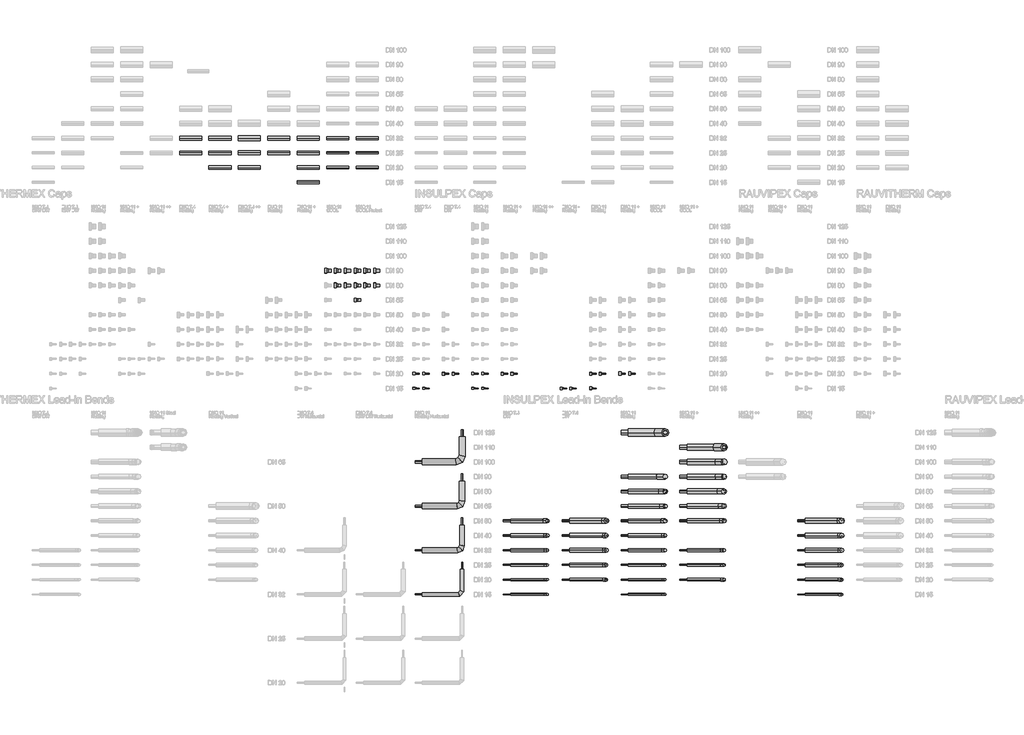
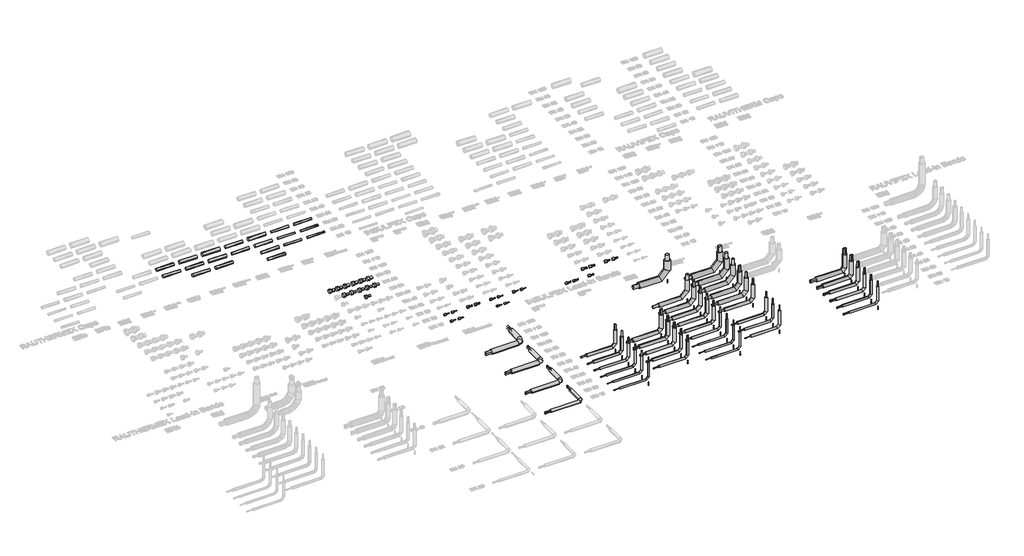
# One storey, part 3 of 44: 71 pipe fittings, 20 pipe segments.
"""IFC4 building model written with IfcOpenShell, lengths in millimetres."""

from ifc_helpers import new_model, si_unit, point, frame, frame_2d, origin, place, context, project, spatial, circle_curve, trimmed, segment, composite_curve, outline, extrude, transform, mapped, element, save
from components import dh_duo_cap_bee7bdcb, dh_duo_cap_a7ad99f1, dh_duo_cap_875ec6dc, dh_duo_cap_3647724c, dh_duo_cap_cb6b19dd, dh_lead_in_bend_9c1f3cdf, dh_lead_in_bend_0a7134a1, dh_lead_in_bend_0193aba3, dh_lead_in_bend_cfb21f70, dh_lead_in_bend_735d89d6, dh_lead_in_bend_4e434183, dh_lead_in_bend_f61e59fa, dh_lead_in_bend_112a9a77, dh_lead_in_bend_075c296f, dh_lead_in_bend_cdc12d39, dh_lead_in_bend_da32da03, dh_lead_in_bend_05f9b5ea, dh_lead_in_bend_30da0b8d, dh_lead_in_bend_9b5e54dc, dh_lead_in_bend_c79e8b9f, dh_lead_in_bend_feeb489e, dh_lead_in_bend_61ed127e, dh_lead_in_bend_73f67a77, dh_lead_in_bend_6452c113, dh_lead_in_bend_522bbd6f, dh_lead_in_bend_619dd2a3, dh_lead_in_bend_09b6b6ad, dh_lead_in_bend_92c5b351, dh_lead_in_bend_d9f55fb0, dh_lead_in_bend_e9c43efa, dh_lead_in_bend_a8d3aaa1, dh_lead_in_bend_2a2338d9, dh_lead_in_bend_900e78fb, dh_lead_in_bend_2175eca0, dh_lead_in_bend_6c71f6cb, dh_lead_in_bend_e1f75ada, dh_lead_in_bend_c3f83f1c, dh_lead_in_bend_d4395a4c, dh_lead_in_bend_4391f219, dh_lead_in_bend_ebeab00c, dh_lead_in_bend_0df09993, dh_lead_in_bend_e5b3f16c, dh_lead_in_bend_34a14ad4, dh_lead_in_bend_cb831e4c, dh_lead_in_bend_8204d9dc, dh_uno_cap_b82545c9, dh_uno_cap_9762717f, dh_uno_cap_46725ca9, dh_uno_cap_33b70dba, dh_uno_cap_73119769, dh_uno_cap_92e64040, dh_uno_cap_945a6275, dh_uno_cap_d341a48a, dh_uno_cap_0c001599, dh_uno_cap_0b3657b0

model = new_model("IFC4")

# Units and contexts
model_context = context("Model", 3, world=origin())
ifc_project = project(units=[si_unit("LENGTHUNIT", "METRE", prefix="MILLI")], contexts=[model_context])

# Site, building, storey
site = spatial("IfcSite", under=ifc_project)
building = spatial("IfcBuilding", under=site)
storey = spatial("IfcBuildingStorey", under=building, Name="REHAU Starting view", Elevation=0.0)

# Pipe fittings
placement = place(None, origin())
dh_duo_cap_shape = dh_duo_cap_bee7bdcb(model_context)
element("IfcPipeFitting", 1, ObjectType="DH_DUO_CAP : INSULPEX DUO 11 Heating - Schrink Cap", at=placement, inside=storey, context=model_context, shape_type="MappedRepresentation", body=[
    mapped(dh_duo_cap_shape, transform((22000.0, 7000.0, 0.0), x_axis=(1.0, 0.0, 0.0), y_axis=(0.0, -1.0, 0.0), z_axis=(0.0, 0.0, -1.0))),
])
dh_duo_cap_2_shape = dh_duo_cap_a7ad99f1(model_context)
element("IfcPipeFitting", 2, ObjectType="DH_DUO_CAP : INSULPEX DUO - 11 Heating - Schrink Cap", at=placement, inside=storey, context=model_context, shape_type="MappedRepresentation", body=[
    mapped(dh_duo_cap_2_shape, transform((21000.0, 7000.0, 0.0), x_axis=(1.0, 0.0, 0.0), y_axis=(0.0, 1.0, 0.0), z_axis=(0.0, 0.0, 1.0))),
])
dh_duo_cap_3_shape = dh_duo_cap_875ec6dc(model_context)
element("IfcPipeFitting", 3, ObjectType="DH_DUO_CAP : INSULPEX DUO 7.4 DW - Schrink Cap", at=placement, inside=storey, context=model_context, shape_type="MappedRepresentation", body=[
    mapped(dh_duo_cap_3_shape, transform((17000.0, 7500.0, 0.0), x_axis=(1.0, 0.0, 0.0), y_axis=(0.0, 1.0, 0.0), z_axis=(0.0, 0.0, 1.0))),
])
element("IfcPipeFitting", 4, ObjectType="DH_DUO_CAP : INSULPEX DUO - 11 Heating - Rubber Cap", at=placement, inside=storey, context=model_context, shape_type="MappedRepresentation", body=[
    mapped(dh_duo_cap_2_shape, transform((21330.0, 7000.0, 0.0), x_axis=(1.0, 0.0, 0.0), y_axis=(0.0, 1.0, 0.0), z_axis=(0.0, 0.0, 1.0))),
])
element("IfcPipeFitting", 5, ObjectType="DH_DUO_CAP : INSULPEX DUO 7.4 DW - Rubber Cap", at=placement, inside=storey, context=model_context, shape_type="MappedRepresentation", body=[
    mapped(dh_duo_cap_3_shape, transform((17330.0, 7500.0, 0.0), x_axis=(1.0, 0.0, 0.0), y_axis=(0.0, 1.0, 0.0), z_axis=(0.0, 0.0, 1.0))),
])
dh_duo_cap_4_shape = dh_duo_cap_3647724c(model_context)
element("IfcPipeFitting", 6, ObjectType="DH_DUO_CAP : INSULPEX DUO 11 Heating - Rubber Cap", at=placement, inside=storey, context=model_context, shape_type="MappedRepresentation", body=[
    mapped(dh_duo_cap_4_shape, transform((22330.0, 7500.0, 0.0), x_axis=(1.0, 0.0, 0.0), y_axis=(0.0, -1.0, 0.0), z_axis=(0.0, 0.0, -1.0))),
])
element("IfcPipeFitting", 7, ObjectType="DH_DUO_CAP : INSULPEX DUO 11 Heating - Schrink Cap", at=placement, inside=storey, context=model_context, shape_type="MappedRepresentation", body=[
    mapped(dh_duo_cap_4_shape, transform((22000.0, 7500.0, 0.0), x_axis=(1.0, 0.0, 0.0), y_axis=(0.0, -1.0, 0.0), z_axis=(0.0, 0.0, -1.0))),
])
dh_duo_cap_5_shape = dh_duo_cap_cb6b19dd(model_context)
element("IfcPipeFitting", 8, ObjectType="DH_DUO_CAP : INSULPEX DUO + 11 Heating - Rubber Cap", at=placement, inside=storey, context=model_context, shape_type="MappedRepresentation", body=[
    mapped(dh_duo_cap_5_shape, transform((23330.0, 7500.0, 0.0), x_axis=(1.0, 0.0, 0.0), y_axis=(0.0, -1.0, 0.0), z_axis=(0.0, 0.0, -1.0))),
])
element("IfcPipeFitting", 9, ObjectType="DH_DUO_CAP : INSULPEX DUO + 11 Heating - Schrink Cap", at=placement, inside=storey, context=model_context, shape_type="MappedRepresentation", body=[
    mapped(dh_duo_cap_5_shape, transform((23000.0, 7500.0, 0.0), x_axis=(1.0, 0.0, 0.0), y_axis=(0.0, -1.0, 0.0), z_axis=(0.0, 0.0, -1.0))),
])
dh_lead_in_bend_shape = dh_lead_in_bend_9c1f3cdf(model_context)
element("IfcPipeFitting", 10, ObjectType="DH_Lead-in Bend : INSULPEX DUO 7.4 DW Vertical", at=placement, inside=storey, context=model_context, shape_type="MappedRepresentation", body=[
    mapped(dh_lead_in_bend_shape, transform((22500.0, 500.0, 0.0), x_axis=(1.0, 0.0, 0.0), y_axis=(0.0, 0.0, 1.0), z_axis=(0.0, -1.0, 0.0))),
])
dh_lead_in_bend_2_shape = dh_lead_in_bend_0a7134a1(model_context)
element("IfcPipeFitting", 11, ObjectType="DH_Lead-in Bend : INSULPEX UNO + 11 Heating", at=placement, inside=storey, context=model_context, shape_type="MappedRepresentation", body=[
    mapped(dh_lead_in_bend_2_shape, transform((26500.0, 500.0, 0.0), x_axis=(1.0, 0.0, 0.0), y_axis=(0.0, 0.0, 1.0), z_axis=(0.0, -1.0, 0.0))),
])
dh_lead_in_bend_3_shape = dh_lead_in_bend_0193aba3(model_context)
element("IfcPipeFitting", 12, ObjectType="DH_Lead-in Bend : INSULPEX UNO 11 Heating", at=placement, inside=storey, context=model_context, shape_type="MappedRepresentation", body=[
    mapped(dh_lead_in_bend_3_shape, transform((24500.0, 4000.0, 0.0), x_axis=(1.0, 0.0, 0.0), y_axis=(0.0, 0.0, 1.0), z_axis=(0.0, -1.0, 0.0))),
])
dh_lead_in_bend_4_shape = dh_lead_in_bend_cfb21f70(model_context)
element("IfcPipeFitting", 13, ObjectType="DH_Lead-in Bend : INSULPEX UNO 7.4 DW", at=placement, inside=storey, context=model_context, shape_type="MappedRepresentation", body=[
    mapped(dh_lead_in_bend_4_shape, transform((20500.0, 0.0, 0.0), x_axis=(1.0, 0.0, 0.0), y_axis=(0.0, 0.0, 1.0), z_axis=(0.0, -1.0, 0.0))),
])
dh_lead_in_bend_5_shape = dh_lead_in_bend_735d89d6(model_context)
element("IfcPipeFitting", 14, ObjectType="DH_Lead-in Bend : INSULPEX DUO 7.4 DW Vertical", at=placement, inside=storey, context=model_context, shape_type="MappedRepresentation", body=[
    mapped(dh_lead_in_bend_5_shape, transform((22500.0, 1000.0, 0.0), x_axis=(1.0, 0.0, 0.0), y_axis=(0.0, 0.0, 1.0), z_axis=(0.0, -1.0, 0.0))),
])
dh_lead_in_bend_6_shape = dh_lead_in_bend_4e434183(model_context)
element("IfcPipeFitting", 15, ObjectType="DH_Lead-in Bend : INSULPEX DUO 7.4 DW Vertical", at=placement, inside=storey, context=model_context, shape_type="MappedRepresentation", body=[
    mapped(dh_lead_in_bend_6_shape, transform((22500.0, 1500.0, 0.0), x_axis=(1.0, 0.0, 0.0), y_axis=(0.0, 0.0, 1.0), z_axis=(0.0, -1.0, 0.0))),
])
dh_lead_in_bend_7_shape = dh_lead_in_bend_f61e59fa(model_context)
element("IfcPipeFitting", 16, ObjectType="DH_Lead-in Bend : INSULPEX DUO 7.4 DW Vertical", at=placement, inside=storey, context=model_context, shape_type="MappedRepresentation", body=[
    mapped(dh_lead_in_bend_7_shape, transform((22500.0, 2000.0, 0.0), x_axis=(1.0, 0.0, 0.0), y_axis=(0.0, 0.0, 1.0), z_axis=(0.0, -1.0, 0.0))),
])
dh_lead_in_bend_8_shape = dh_lead_in_bend_112a9a77(model_context)
element("IfcPipeFitting", 17, ObjectType="DH_Lead-in Bend : INSULPEX DUO 7.4 DW Vertical", at=placement, inside=storey, context=model_context, shape_type="MappedRepresentation", body=[
    mapped(dh_lead_in_bend_8_shape, transform((22500.0, 2500.0, 0.0), x_axis=(1.0, 0.0, 0.0), y_axis=(0.0, 0.0, 1.0), z_axis=(0.0, -1.0, 0.0))),
])
dh_lead_in_bend_9_shape = dh_lead_in_bend_075c296f(model_context)
element("IfcPipeFitting", 18, ObjectType="DH_Lead-in Bend : INSULPEX DUO 11 Heating Vertical", at=placement, inside=storey, context=model_context, shape_type="MappedRepresentation", body=[
    mapped(dh_lead_in_bend_9_shape, transform((30500.0, 0.0, 0.0), x_axis=(1.0, 0.0, 0.0), y_axis=(0.0, 0.0, 1.0), z_axis=(0.0, -1.0, 0.0))),
])
dh_lead_in_bend_10_shape = dh_lead_in_bend_cdc12d39(model_context)
element("IfcPipeFitting", 19, ObjectType="DH_Lead-in Bend : INSULPEX DUO 11 Heating Vertical", at=placement, inside=storey, context=model_context, shape_type="MappedRepresentation", body=[
    mapped(dh_lead_in_bend_10_shape, transform((30500.0, 500.0, 0.0), x_axis=(1.0, 0.0, 0.0), y_axis=(0.0, 0.0, 1.0), z_axis=(0.0, -1.0, 0.0))),
])
dh_lead_in_bend_11_shape = dh_lead_in_bend_da32da03(model_context)
element("IfcPipeFitting", 20, ObjectType="DH_Lead-in Bend : INSULPEX DUO 11 Heating Vertical", at=placement, inside=storey, context=model_context, shape_type="MappedRepresentation", body=[
    mapped(dh_lead_in_bend_11_shape, transform((30500.0, 1000.0, 0.0), x_axis=(1.0, 0.0, 0.0), y_axis=(0.0, 0.0, 1.0), z_axis=(0.0, -1.0, 0.0))),
])
dh_lead_in_bend_12_shape = dh_lead_in_bend_05f9b5ea(model_context)
element("IfcPipeFitting", 21, ObjectType="DH_Lead-in Bend : INSULPEX DUO 11 Heating Vertical", at=placement, inside=storey, context=model_context, shape_type="MappedRepresentation", body=[
    mapped(dh_lead_in_bend_12_shape, transform((30500.0, 1500.0, 0.0), x_axis=(1.0, 0.0, 0.0), y_axis=(0.0, 0.0, 1.0), z_axis=(0.0, -1.0, 0.0))),
])
dh_lead_in_bend_13_shape = dh_lead_in_bend_30da0b8d(model_context)
element("IfcPipeFitting", 22, ObjectType="DH_Lead-in Bend : INSULPEX DUO 11 Heating Vertical", at=placement, inside=storey, context=model_context, shape_type="MappedRepresentation", body=[
    mapped(dh_lead_in_bend_13_shape, transform((30500.0, 2000.0, 0.0), x_axis=(1.0, 0.0, 0.0), y_axis=(0.0, 0.0, 1.0), z_axis=(0.0, -1.0, 0.0))),
])
dh_lead_in_bend_14_shape = dh_lead_in_bend_9b5e54dc(model_context)
element("IfcPipeFitting", 23, ObjectType="DH_Lead-in Bend : INSULPEX DUO 11 Heating Vertical", at=placement, inside=storey, context=model_context, shape_type="MappedRepresentation", body=[
    mapped(dh_lead_in_bend_14_shape, transform((30500.0, 2500.0, 0.0), x_axis=(1.0, 0.0, 0.0), y_axis=(0.0, 0.0, 1.0), z_axis=(0.0, -1.0, 0.0))),
])
dh_lead_in_bend_15_shape = dh_lead_in_bend_c79e8b9f(model_context)
element("IfcPipeFitting", 24, ObjectType="DH_Lead-in Bend : INSULPEX UNO 7.4 DW", at=placement, inside=storey, context=model_context, shape_type="MappedRepresentation", body=[
    mapped(dh_lead_in_bend_15_shape, transform((20500.0, 500.0, 0.0), x_axis=(1.0, 0.0, 0.0), y_axis=(0.0, 0.0, 1.0), z_axis=(0.0, -1.0, 0.0))),
])
dh_lead_in_bend_16_shape = dh_lead_in_bend_feeb489e(model_context)
element("IfcPipeFitting", 25, ObjectType="DH_Lead-in Bend : INSULPEX UNO 7.4 DW", at=placement, inside=storey, context=model_context, shape_type="MappedRepresentation", body=[
    mapped(dh_lead_in_bend_16_shape, transform((20500.0, 1000.0, 0.0), x_axis=(1.0, 0.0, 0.0), y_axis=(0.0, 0.0, 1.0), z_axis=(0.0, -1.0, 0.0))),
])
dh_lead_in_bend_17_shape = dh_lead_in_bend_61ed127e(model_context)
element("IfcPipeFitting", 26, ObjectType="DH_Lead-in Bend : INSULPEX UNO 7.4 DW", at=placement, inside=storey, context=model_context, shape_type="MappedRepresentation", body=[
    mapped(dh_lead_in_bend_17_shape, transform((20500.0, 1500.0, 0.0), x_axis=(1.0, 0.0, 0.0), y_axis=(0.0, 0.0, 1.0), z_axis=(0.0, -1.0, 0.0))),
])
dh_lead_in_bend_18_shape = dh_lead_in_bend_73f67a77(model_context)
element("IfcPipeFitting", 27, ObjectType="DH_Lead-in Bend : INSULPEX UNO 7.4 DW", at=placement, inside=storey, context=model_context, shape_type="MappedRepresentation", body=[
    mapped(dh_lead_in_bend_18_shape, transform((20500.0, 2000.0, 0.0), x_axis=(1.0, 0.0, 0.0), y_axis=(0.0, 0.0, 1.0), z_axis=(0.0, -1.0, 0.0))),
])
dh_lead_in_bend_19_shape = dh_lead_in_bend_6452c113(model_context)
element("IfcPipeFitting", 28, ObjectType="DH_Lead-in Bend : INSULPEX UNO 7.4 DW", at=placement, inside=storey, context=model_context, shape_type="MappedRepresentation", body=[
    mapped(dh_lead_in_bend_19_shape, transform((20500.0, 2500.0, 0.0), x_axis=(1.0, 0.0, 0.0), y_axis=(0.0, 0.0, 1.0), z_axis=(0.0, -1.0, 0.0))),
])
dh_lead_in_bend_20_shape = dh_lead_in_bend_522bbd6f(model_context)
element("IfcPipeFitting", 29, ObjectType="DH_Lead-in Bend : INSULPEX UNO 11 Heating", at=placement, inside=storey, context=model_context, shape_type="MappedRepresentation", body=[
    mapped(dh_lead_in_bend_20_shape, transform((24500.0, 0.0, 0.0), x_axis=(1.0, 0.0, 0.0), y_axis=(0.0, 0.0, 1.0), z_axis=(0.0, -1.0, 0.0))),
])
dh_lead_in_bend_21_shape = dh_lead_in_bend_619dd2a3(model_context)
element("IfcPipeFitting", 30, ObjectType="DH_Lead-in Bend : INSULPEX UNO 11 Heating", at=placement, inside=storey, context=model_context, shape_type="MappedRepresentation", body=[
    mapped(dh_lead_in_bend_21_shape, transform((24500.0, 500.0, 0.0), x_axis=(1.0, 0.0, 0.0), y_axis=(0.0, 0.0, 1.0), z_axis=(0.0, -1.0, 0.0))),
])
dh_lead_in_bend_22_shape = dh_lead_in_bend_09b6b6ad(model_context)
element("IfcPipeFitting", 31, ObjectType="DH_Lead-in Bend : INSULPEX UNO 11 Heating", at=placement, inside=storey, context=model_context, shape_type="MappedRepresentation", body=[
    mapped(dh_lead_in_bend_22_shape, transform((24500.0, 1000.0, 0.0), x_axis=(1.0, 0.0, 0.0), y_axis=(0.0, 0.0, 1.0), z_axis=(0.0, -1.0, 0.0))),
])
dh_lead_in_bend_23_shape = dh_lead_in_bend_92c5b351(model_context)
element("IfcPipeFitting", 32, ObjectType="DH_Lead-in Bend : INSULPEX UNO 11 Heating", at=placement, inside=storey, context=model_context, shape_type="MappedRepresentation", body=[
    mapped(dh_lead_in_bend_23_shape, transform((24500.0, 1500.0, 0.0), x_axis=(1.0, 0.0, 0.0), y_axis=(0.0, 0.0, 1.0), z_axis=(0.0, -1.0, 0.0))),
])
dh_lead_in_bend_24_shape = dh_lead_in_bend_d9f55fb0(model_context)
element("IfcPipeFitting", 33, ObjectType="DH_Lead-in Bend : INSULPEX UNO 11 Heating", at=placement, inside=storey, context=model_context, shape_type="MappedRepresentation", body=[
    mapped(dh_lead_in_bend_24_shape, transform((24500.0, 2000.0, 0.0), x_axis=(1.0, 0.0, 0.0), y_axis=(0.0, 0.0, 1.0), z_axis=(0.0, -1.0, 0.0))),
])
dh_lead_in_bend_25_shape = dh_lead_in_bend_e9c43efa(model_context)
element("IfcPipeFitting", 34, ObjectType="DH_Lead-in Bend : INSULPEX UNO 11 Heating", at=placement, inside=storey, context=model_context, shape_type="MappedRepresentation", body=[
    mapped(dh_lead_in_bend_25_shape, transform((24500.0, 2500.0, 0.0), x_axis=(1.0, 0.0, 0.0), y_axis=(0.0, 0.0, 1.0), z_axis=(0.0, -1.0, 0.0))),
])
dh_lead_in_bend_26_shape = dh_lead_in_bend_a8d3aaa1(model_context)
element("IfcPipeFitting", 35, ObjectType="DH_Lead-in Bend : INSULPEX UNO 11 Heating", at=placement, inside=storey, context=model_context, shape_type="MappedRepresentation", body=[
    mapped(dh_lead_in_bend_26_shape, transform((24500.0, 3000.0, 0.0), x_axis=(1.0, 0.0, 0.0), y_axis=(0.0, 0.0, 1.0), z_axis=(0.0, -1.0, 0.0))),
])
dh_lead_in_bend_27_shape = dh_lead_in_bend_2a2338d9(model_context)
element("IfcPipeFitting", 36, ObjectType="DH_Lead-in Bend : INSULPEX UNO 11 Heating", at=placement, inside=storey, context=model_context, shape_type="MappedRepresentation", body=[
    mapped(dh_lead_in_bend_27_shape, transform((24500.0, 3500.0, 0.0), x_axis=(1.0, 0.0, 0.0), y_axis=(0.0, 0.0, 1.0), z_axis=(0.0, -1.0, 0.0))),
])
dh_lead_in_bend_28_shape = dh_lead_in_bend_900e78fb(model_context)
element("IfcPipeFitting", 37, ObjectType="DH_Lead-in Bend : INSULPEX UNO 11 Heating", at=placement, inside=storey, context=model_context, shape_type="MappedRepresentation", body=[
    mapped(dh_lead_in_bend_28_shape, transform((24500.0, 5500.0, 0.0), x_axis=(1.0, 0.0, 0.0), y_axis=(0.0, 0.0, 1.0), z_axis=(0.0, -1.0, 0.0))),
])
dh_lead_in_bend_29_shape = dh_lead_in_bend_2175eca0(model_context)
element("IfcPipeFitting", 38, ObjectType="DH_Lead-in Bend : INSULPEX UNO + 11 Heating", at=placement, inside=storey, context=model_context, shape_type="MappedRepresentation", body=[
    mapped(dh_lead_in_bend_29_shape, transform((26500.0, 1000.0, 0.0), x_axis=(1.0, 0.0, 0.0), y_axis=(0.0, 0.0, 1.0), z_axis=(0.0, -1.0, 0.0))),
])
dh_lead_in_bend_30_shape = dh_lead_in_bend_6c71f6cb(model_context)
element("IfcPipeFitting", 39, ObjectType="DH_Lead-in Bend : INSULPEX UNO + 11 Heating", at=placement, inside=storey, context=model_context, shape_type="MappedRepresentation", body=[
    mapped(dh_lead_in_bend_30_shape, transform((26500.0, 1500.0, 0.0), x_axis=(1.0, 0.0, 0.0), y_axis=(0.0, 0.0, 1.0), z_axis=(0.0, -1.0, 0.0))),
])
dh_lead_in_bend_31_shape = dh_lead_in_bend_e1f75ada(model_context)
element("IfcPipeFitting", 40, ObjectType="DH_Lead-in Bend : INSULPEX UNO + 11 Heating", at=placement, inside=storey, context=model_context, shape_type="MappedRepresentation", body=[
    mapped(dh_lead_in_bend_31_shape, transform((26500.0, 2500.0, 0.0), x_axis=(1.0, 0.0, 0.0), y_axis=(0.0, 0.0, 1.0), z_axis=(0.0, -1.0, 0.0))),
])
dh_lead_in_bend_32_shape = dh_lead_in_bend_c3f83f1c(model_context)
element("IfcPipeFitting", 41, ObjectType="DH_Lead-in Bend : INSULPEX UNO + 11 Heating", at=placement, inside=storey, context=model_context, shape_type="MappedRepresentation", body=[
    mapped(dh_lead_in_bend_32_shape, transform((26500.0, 3000.0, 0.0), x_axis=(1.0, 0.0, 0.0), y_axis=(0.0, 0.0, 1.0), z_axis=(0.0, -1.0, 0.0))),
])
dh_lead_in_bend_33_shape = dh_lead_in_bend_d4395a4c(model_context)
element("IfcPipeFitting", 42, ObjectType="DH_Lead-in Bend : INSULPEX UNO + 11 Heating", at=placement, inside=storey, context=model_context, shape_type="MappedRepresentation", body=[
    mapped(dh_lead_in_bend_33_shape, transform((26500.0, 3500.0, 0.0), x_axis=(1.0, 0.0, 0.0), y_axis=(0.0, 0.0, 1.0), z_axis=(0.0, -1.0, 0.0))),
])
dh_lead_in_bend_34_shape = dh_lead_in_bend_4391f219(model_context)
element("IfcPipeFitting", 43, ObjectType="DH_Lead-in Bend : INSULPEX UNO + 11 Heating", at=placement, inside=storey, context=model_context, shape_type="MappedRepresentation", body=[
    mapped(dh_lead_in_bend_34_shape, transform((26500.0, 4000.0, 0.0), x_axis=(1.0, 0.0, 0.0), y_axis=(0.0, 0.0, 1.0), z_axis=(0.0, -1.0, 0.0))),
])
dh_lead_in_bend_35_shape = dh_lead_in_bend_ebeab00c(model_context)
element("IfcPipeFitting", 44, ObjectType="DH_Lead-in Bend : INSULPEX UNO + 11 Heating", at=placement, inside=storey, context=model_context, shape_type="MappedRepresentation", body=[
    mapped(dh_lead_in_bend_35_shape, transform((26500.0, 4500.0, 0.0), x_axis=(1.0, 0.0, 0.0), y_axis=(0.0, 0.0, 1.0), z_axis=(0.0, -1.0, 0.0))),
])
dh_lead_in_bend_36_shape = dh_lead_in_bend_0df09993(model_context)
element("IfcPipeFitting", 45, ObjectType="DH_Lead-in Bend : RVT/RVX/RTX DUO 11 Heating Horizontal", at=placement, inside=storey, context=model_context, shape_type="MappedRepresentation", body=[
    mapped(dh_lead_in_bend_36_shape, transform((17600.0, 0.0, 0.0), x_axis=(1.0, 0.0, 0.0), y_axis=(0.0, 1.0, 0.0), z_axis=(0.0, 0.0, 1.0))),
])
dh_lead_in_bend_37_shape = dh_lead_in_bend_e5b3f16c(model_context)
element("IfcPipeFitting", 46, ObjectType="DH_Lead-in Bend : RVT/RVX/RTX DUO 11 Heating Horizontal", at=placement, inside=storey, context=model_context, shape_type="MappedRepresentation", body=[
    mapped(dh_lead_in_bend_37_shape, transform((17600.0, 1500.0, 0.0), x_axis=(1.0, 0.0, 0.0), y_axis=(0.0, 1.0, 0.0), z_axis=(0.0, 0.0, 1.0))),
])
dh_lead_in_bend_38_shape = dh_lead_in_bend_34a14ad4(model_context)
element("IfcPipeFitting", 47, ObjectType="DH_Lead-in Bend : RVT/RVX/RTX DUO 11 Heating Horizontal", at=placement, inside=storey, context=model_context, shape_type="MappedRepresentation", body=[
    mapped(dh_lead_in_bend_38_shape, transform((17600.0, 3000.0, 0.0), x_axis=(1.0, 0.0, 0.0), y_axis=(0.0, 1.0, 0.0), z_axis=(0.0, 0.0, 1.0))),
])
dh_lead_in_bend_39_shape = dh_lead_in_bend_cb831e4c(model_context)
element("IfcPipeFitting", 48, ObjectType="DH_Lead-in Bend : RVT/RVX/RTX DUO 11 Heating Horizontal", at=placement, inside=storey, context=model_context, shape_type="MappedRepresentation", body=[
    mapped(dh_lead_in_bend_39_shape, transform((17600.0, 4500.0, 0.0), x_axis=(1.0, 0.0, 0.0), y_axis=(0.0, 1.0, 0.0), z_axis=(0.0, 0.0, 1.0))),
])
dh_lead_in_bend_40_shape = dh_lead_in_bend_8204d9dc(model_context)
element("IfcPipeFitting", 49, ObjectType="DH_Lead-in Bend : INSULPEX UNO + 11 Heating", at=placement, inside=storey, context=model_context, shape_type="MappedRepresentation", body=[
    mapped(dh_lead_in_bend_40_shape, transform((26500.0, 5000.0, 0.0), x_axis=(1.0, 0.0, 0.0), y_axis=(0.0, 0.0, 1.0), z_axis=(0.0, -1.0, 0.0))),
])
dh_uno_cap_shape = dh_uno_cap_b82545c9(model_context)
element("IfcPipeFitting", 50, ObjectType="DH_UNO_CAP : INSULPEX UNO 11 Heating - Schrink Cap", at=placement, inside=storey, context=model_context, shape_type="MappedRepresentation", body=[
    mapped(dh_uno_cap_shape, transform((18000.0, 7000.0, 0.0), x_axis=(1.0, 0.0, 0.0), y_axis=(0.0, 1.0, 0.0), z_axis=(0.0, 0.0, 1.0))),
])
dh_uno_cap_2_shape = dh_uno_cap_9762717f(model_context)
element("IfcPipeFitting", 51, ObjectType="DH_UNO_CAP : INSULPEX UNO 7.4 DW - Schrink Cap", at=placement, inside=storey, context=model_context, shape_type="MappedRepresentation", body=[
    mapped(dh_uno_cap_2_shape, transform((16000.0, 7500.0, 0.0), x_axis=(1.0, 0.0, 0.0), y_axis=(0.0, 1.0, 0.0), z_axis=(0.0, 0.0, 1.0))),
])
element("IfcPipeFitting", 52, ObjectType="DH_UNO_CAP : INSULPEX UNO 7.4 DW - Rubber Cap", at=placement, inside=storey, context=model_context, shape_type="MappedRepresentation", body=[
    mapped(dh_uno_cap_2_shape, transform((16330.0, 7500.0, 0.0), x_axis=(1.0, 0.0, 0.0), y_axis=(0.0, 1.0, 0.0), z_axis=(0.0, 0.0, 1.0))),
])
dh_uno_cap_3_shape = dh_uno_cap_46725ca9(model_context)
element("IfcPipeFitting", 53, ObjectType="DH_UNO_CAP : INSULPEX UNO + 11 Heating - Schrink Cap", at=placement, inside=storey, context=model_context, shape_type="MappedRepresentation", body=[
    mapped(dh_uno_cap_3_shape, transform((19000.0, 7500.0, 0.0), x_axis=(1.0, 0.0, 0.0), y_axis=(0.0, 1.0, 0.0), z_axis=(0.0, 0.0, 1.0))),
])
element("IfcPipeFitting", 54, ObjectType="DH_UNO_CAP : INSULPEX UNO + 11 Heating - Rubber Cap", at=placement, inside=storey, context=model_context, shape_type="MappedRepresentation", body=[
    mapped(dh_uno_cap_3_shape, transform((19330.0, 7500.0, 0.0), x_axis=(1.0, 0.0, 0.0), y_axis=(0.0, -1.0, 0.0), z_axis=(0.0, 0.0, -1.0))),
])
dh_uno_cap_4_shape = dh_uno_cap_33b70dba(model_context)
element("IfcPipeFitting", 55, ObjectType="DH_UNO_CAP : RAUTHERMEX UNO 11 COOL - Rubber Cap", at=placement, inside=storey, context=model_context, shape_type="MappedRepresentation", body=[
    mapped(dh_uno_cap_4_shape, transform((13330.0, 10500.0, 0.0), x_axis=(1.0, 0.0, 0.0), y_axis=(0.0, 1.0, 0.0), z_axis=(0.0, 0.0, 1.0))),
])
dh_uno_cap_5_shape = dh_uno_cap_73119769(model_context)
element("IfcPipeFitting", 56, ObjectType="DH_UNO_CAP : RAUTHERMEX UNO 11 COOL - Solid Cap", at=placement, inside=storey, context=model_context, shape_type="MappedRepresentation", body=[
    mapped(dh_uno_cap_5_shape, transform((13660.0, 10500.0, 0.0), x_axis=(1.0, 0.0, 0.0), y_axis=(0.0, 1.0, 0.0), z_axis=(0.0, 0.0, 1.0))),
])
dh_uno_cap_6_shape = dh_uno_cap_92e64040(model_context)
element("IfcPipeFitting", 57, ObjectType="DH_UNO_CAP : RAUTHERMEX UNO 11 COOL - Schrink Cap", at=placement, inside=storey, context=model_context, shape_type="MappedRepresentation", body=[
    mapped(dh_uno_cap_6_shape, transform((13000.0, 11000.0, 0.0), x_axis=(1.0, 0.0, 0.0), y_axis=(0.0, 1.0, 0.0), z_axis=(0.0, 0.0, 1.0))),
])
element("IfcPipeFitting", 58, ObjectType="DH_UNO_CAP : RAUTHERMEX UNO 11 COOL - Rubber Cap", at=placement, inside=storey, context=model_context, shape_type="MappedRepresentation", body=[
    mapped(dh_uno_cap_6_shape, transform((13330.0, 11000.0, 0.0), x_axis=(1.0, 0.0, 0.0), y_axis=(0.0, 1.0, 0.0), z_axis=(0.0, 0.0, 1.0))),
])
dh_uno_cap_7_shape = dh_uno_cap_945a6275(model_context)
element("IfcPipeFitting", 59, ObjectType="DH_UNO_CAP : RAUTHERMEX UNO 11 COOL - Solid Cap", at=placement, inside=storey, context=model_context, shape_type="MappedRepresentation", body=[
    mapped(dh_uno_cap_7_shape, transform((13660.0, 11000.0, 0.0), x_axis=(1.0, 0.0, 0.0), y_axis=(0.0, 1.0, 0.0), z_axis=(0.0, 0.0, 1.0))),
])
dh_uno_cap_8_shape = dh_uno_cap_d341a48a(model_context)
element("IfcPipeFitting", 60, ObjectType="DH_UNO_CAP : RAUTHERMEX UNO 11 COOL Protect - Schrink Cap", at=placement, inside=storey, context=model_context, shape_type="MappedRepresentation", body=[
    mapped(dh_uno_cap_8_shape, transform((14000.0, 10000.0, 0.0), x_axis=(1.0, 0.0, 0.0), y_axis=(0.0, 1.0, 0.0), z_axis=(0.0, 0.0, 1.0))),
])
element("IfcPipeFitting", 61, ObjectType="DH_UNO_CAP : RAUTHERMEX UNO 11 COOL Protect - Schrink Cap", at=placement, inside=storey, context=model_context, shape_type="MappedRepresentation", body=[
    mapped(dh_uno_cap_4_shape, transform((14000.0, 10500.0, 0.0), x_axis=(1.0, 0.0, 0.0), y_axis=(0.0, 1.0, 0.0), z_axis=(0.0, 0.0, 1.0))),
])
element("IfcPipeFitting", 62, ObjectType="DH_UNO_CAP : RAUTHERMEX UNO 11 COOL Protect - Rubber Cap", at=placement, inside=storey, context=model_context, shape_type="MappedRepresentation", body=[
    mapped(dh_uno_cap_4_shape, transform((14330.0, 10500.0, 0.0), x_axis=(1.0, 0.0, 0.0), y_axis=(0.0, 1.0, 0.0), z_axis=(0.0, 0.0, 1.0))),
])
element("IfcPipeFitting", 63, ObjectType="DH_UNO_CAP : RAUTHERMEX UNO 11 COOL Protect - Solid Cap", at=placement, inside=storey, context=model_context, shape_type="MappedRepresentation", body=[
    mapped(dh_uno_cap_5_shape, transform((14660.0, 10500.0, 0.0), x_axis=(1.0, 0.0, 0.0), y_axis=(0.0, 1.0, 0.0), z_axis=(0.0, 0.0, 1.0))),
])
element("IfcPipeFitting", 64, ObjectType="DH_UNO_CAP : RAUTHERMEX UNO 11 COOL Protect - Schrink Cap", at=placement, inside=storey, context=model_context, shape_type="MappedRepresentation", body=[
    mapped(dh_uno_cap_6_shape, transform((14000.0, 11000.0, 0.0), x_axis=(1.0, 0.0, 0.0), y_axis=(0.0, 1.0, 0.0), z_axis=(0.0, 0.0, 1.0))),
])
element("IfcPipeFitting", 65, ObjectType="DH_UNO_CAP : RAUTHERMEX UNO 11 COOL Protect - Rubber Cap", at=placement, inside=storey, context=model_context, shape_type="MappedRepresentation", body=[
    mapped(dh_uno_cap_6_shape, transform((14330.0, 11000.0, 0.0), x_axis=(1.0, 0.0, 0.0), y_axis=(0.0, 1.0, 0.0), z_axis=(0.0, 0.0, 1.0))),
])
element("IfcPipeFitting", 66, ObjectType="DH_UNO_CAP : RAUTHERMEX UNO 11 COOL Protect - Solid Cap", at=placement, inside=storey, context=model_context, shape_type="MappedRepresentation", body=[
    mapped(dh_uno_cap_7_shape, transform((14660.0, 11000.0, 0.0), x_axis=(1.0, 0.0, 0.0), y_axis=(0.0, 1.0, 0.0), z_axis=(0.0, 0.0, 1.0))),
])
dh_uno_cap_9_shape = dh_uno_cap_0c001599(model_context)
element("IfcPipeFitting", 67, ObjectType="DH_UNO_CAP : INSULPEX UNO 7.4 DW - Schrink Cap", at=placement, inside=storey, context=model_context, shape_type="MappedRepresentation", body=[
    mapped(dh_uno_cap_9_shape, transform((16000.0, 7000.0, 0.0), x_axis=(1.0, 0.0, 0.0), y_axis=(0.0, 1.0, 0.0), z_axis=(0.0, 0.0, 1.0))),
])
element("IfcPipeFitting", 68, ObjectType="DH_UNO_CAP : INSULPEX UNO 7.4 DW - Rubber Cap", at=placement, inside=storey, context=model_context, shape_type="MappedRepresentation", body=[
    mapped(dh_uno_cap_9_shape, transform((16330.0, 7000.0, 0.0), x_axis=(1.0, 0.0, 0.0), y_axis=(0.0, 1.0, 0.0), z_axis=(0.0, 0.0, 1.0))),
])
element("IfcPipeFitting", 69, ObjectType="DH_UNO_CAP : INSULPEX UNO 11 Heating - Rubber Cap", at=placement, inside=storey, context=model_context, shape_type="MappedRepresentation", body=[
    mapped(dh_uno_cap_shape, transform((18330.0, 7000.0, 0.0), x_axis=(1.0, 0.0, 0.0), y_axis=(0.0, -1.0, 0.0), z_axis=(0.0, 0.0, -1.0))),
])
dh_uno_cap_10_shape = dh_uno_cap_0b3657b0(model_context)
element("IfcPipeFitting", 70, ObjectType="DH_UNO_CAP : INSULPEX UNO 11 Heating - Schrink Cap", at=placement, inside=storey, context=model_context, shape_type="MappedRepresentation", body=[
    mapped(dh_uno_cap_10_shape, transform((18000.0, 7500.0, 0.0), x_axis=(1.0, 0.0, 0.0), y_axis=(0.0, 1.0, 0.0), z_axis=(0.0, 0.0, 1.0))),
])
element("IfcPipeFitting", 71, ObjectType="DH_UNO_CAP : INSULPEX UNO 11 Heating - Rubber Cap", at=placement, inside=storey, context=model_context, shape_type="MappedRepresentation", body=[
    mapped(dh_uno_cap_10_shape, transform((18330.0, 7500.0, 0.0), x_axis=(1.0, 0.0, 0.0), y_axis=(0.0, -1.0, 0.0), z_axis=(0.0, 0.0, -1.0))),
])

# Pipe segments
element("IfcPipeSegment", 72, ObjectType="RAUTHERMEX DUO + 7.4 Heating", at=placement, inside=storey, context=model_context, shape_type="SweptSolid", body=[
    extrude(outline(composite_curve([segment(trimmed(circle_curve(frame_2d((14500.0, 0.0)), 55.5), [point((14444.5, 0.0))], [point((14500.0, 55.5))], False, "CARTESIAN"), True, "CONTINUOUS"), segment(trimmed(circle_curve(frame_2d((14500.0, 0.0)), 55.5), [point((14500.0, 55.5))], [point((14555.5, 0.0))], False, "CARTESIAN"), True, "CONTINUOUS"), segment(trimmed(circle_curve(frame_2d((14500.0, 0.0)), 55.5), [point((14555.5, 0.0))], [point((14500.0, -55.5))], False, "CARTESIAN"), True, "CONTINUOUS"), segment(trimmed(circle_curve(frame_2d((14500.0, 0.0)), 55.5), [point((14500.0, -55.5))], [point((14444.5, 0.0))], False, "CARTESIAN"), True, "CONTINUOUS")], self_intersect=False)), frame((9000.0, 0.0, 0.0), z_axis=(1.0, 0.0, 0.0), x_axis=(0.0, 1.0, 0.0)), (0.0, 0.0, 1.0), 750.0),
])
element("IfcPipeSegment", 73, ObjectType="RAUTHERMEX DUO + 7.4 Heating", at=placement, inside=storey, context=model_context, shape_type="SweptSolid", body=[
    extrude(outline(composite_curve([segment(trimmed(circle_curve(frame_2d((15000.0, 0.0)), 63.0), [point((14937.0, 0.0))], [point((15000.0, 63.0))], False, "CARTESIAN"), True, "CONTINUOUS"), segment(trimmed(circle_curve(frame_2d((15000.0, 0.0)), 63.0), [point((15000.0, 63.0))], [point((15063.0, 0.0))], False, "CARTESIAN"), True, "CONTINUOUS"), segment(trimmed(circle_curve(frame_2d((15000.0, 0.0)), 63.0), [point((15063.0, 0.0))], [point((15000.0, -63.0))], False, "CARTESIAN"), True, "CONTINUOUS"), segment(trimmed(circle_curve(frame_2d((15000.0, 0.0)), 63.0), [point((15000.0, -63.0))], [point((14937.0, 0.0))], False, "CARTESIAN"), True, "CONTINUOUS")], self_intersect=False)), frame((9000.0, 0.0, 0.0), z_axis=(1.0, 0.0, 0.0), x_axis=(0.0, 1.0, 0.0)), (0.0, 0.0, 1.0), 750.0),
])
element("IfcPipeSegment", 74, ObjectType="RAUTHERMEX DUO + 7.4 Heating", at=placement, inside=storey, context=model_context, shape_type="SweptSolid", body=[
    extrude(outline(composite_curve([segment(trimmed(circle_curve(frame_2d((15500.0, 0.0)), 71.0), [point((15429.0, 0.0))], [point((15500.0, 71.0))], False, "CARTESIAN"), True, "CONTINUOUS"), segment(trimmed(circle_curve(frame_2d((15500.0, 0.0)), 71.0), [point((15500.0, 71.0))], [point((15571.0, 0.0))], False, "CARTESIAN"), True, "CONTINUOUS"), segment(trimmed(circle_curve(frame_2d((15500.0, 0.0)), 71.0), [point((15571.0, 0.0))], [point((15500.0, -71.0))], False, "CARTESIAN"), True, "CONTINUOUS"), segment(trimmed(circle_curve(frame_2d((15500.0, 0.0)), 71.0), [point((15500.0, -71.0))], [point((15429.0, 0.0))], False, "CARTESIAN"), True, "CONTINUOUS")], self_intersect=False)), frame((9000.0, 0.0, 0.0), z_axis=(1.0, 0.0, 0.0), x_axis=(0.0, 1.0, 0.0)), (0.0, 0.0, 1.0), 750.0),
])
element("IfcPipeSegment", 75, ObjectType="RAUTHERMEX DUO 7.4 Heating", at=placement, inside=storey, context=model_context, shape_type="SweptSolid", body=[
    extrude(outline(composite_curve([segment(trimmed(circle_curve(frame_2d((15000.0, 0.0)), 55.5), [point((14944.5, 0.0))], [point((15000.0, 55.5))], False, "CARTESIAN"), True, "CONTINUOUS"), segment(trimmed(circle_curve(frame_2d((15000.0, 0.0)), 55.5), [point((15000.0, 55.5))], [point((15055.5, 0.0))], False, "CARTESIAN"), True, "CONTINUOUS"), segment(trimmed(circle_curve(frame_2d((15000.0, 0.0)), 55.5), [point((15055.5, 0.0))], [point((15000.0, -55.5))], False, "CARTESIAN"), True, "CONTINUOUS"), segment(trimmed(circle_curve(frame_2d((15000.0, 0.0)), 55.5), [point((15000.0, -55.5))], [point((14944.5, 0.0))], False, "CARTESIAN"), True, "CONTINUOUS")], self_intersect=False)), frame((8000.0, 0.0, 0.0), z_axis=(1.0, 0.0, 0.0), x_axis=(0.0, 1.0, 0.0)), (0.0, 0.0, 1.0), 750.0),
])
element("IfcPipeSegment", 76, ObjectType="RAUTHERMEX DUO 7.4 Heating", at=placement, inside=storey, context=model_context, shape_type="SweptSolid", body=[
    extrude(outline(composite_curve([segment(trimmed(circle_curve(frame_2d((15500.0, 0.0)), 63.0), [point((15437.0, 0.0))], [point((15500.0, 63.0))], False, "CARTESIAN"), True, "CONTINUOUS"), segment(trimmed(circle_curve(frame_2d((15500.0, 0.0)), 63.0), [point((15500.0, 63.0))], [point((15563.0, 0.0))], False, "CARTESIAN"), True, "CONTINUOUS"), segment(trimmed(circle_curve(frame_2d((15500.0, 0.0)), 63.0), [point((15563.0, 0.0))], [point((15500.0, -63.0))], False, "CARTESIAN"), True, "CONTINUOUS"), segment(trimmed(circle_curve(frame_2d((15500.0, 0.0)), 63.0), [point((15500.0, -63.0))], [point((15437.0, 0.0))], False, "CARTESIAN"), True, "CONTINUOUS")], self_intersect=False)), frame((8000.0, 0.0, 0.0), z_axis=(1.0, 0.0, 0.0), x_axis=(0.0, 1.0, 0.0)), (0.0, 0.0, 1.0), 750.0),
])
element("IfcPipeSegment", 77, ObjectType="RAUTHERMEX DUO ++ 7.4 Heating", at=placement, inside=storey, context=model_context, shape_type="SweptSolid", body=[
    extrude(outline(composite_curve([segment(trimmed(circle_curve(frame_2d((14500.0, 0.0)), 63.0), [point((14437.0, 0.0))], [point((14500.0, 63.0))], False, "CARTESIAN"), True, "CONTINUOUS"), segment(trimmed(circle_curve(frame_2d((14500.0, 0.0)), 63.0), [point((14500.0, 63.0))], [point((14563.0, 0.0))], False, "CARTESIAN"), True, "CONTINUOUS"), segment(trimmed(circle_curve(frame_2d((14500.0, 0.0)), 63.0), [point((14563.0, 0.0))], [point((14500.0, -63.0))], False, "CARTESIAN"), True, "CONTINUOUS"), segment(trimmed(circle_curve(frame_2d((14500.0, 0.0)), 63.0), [point((14500.0, -63.0))], [point((14437.0, 0.0))], False, "CARTESIAN"), True, "CONTINUOUS")], self_intersect=False)), frame((10000.0, 0.0, 0.0), z_axis=(1.0, 0.0, 0.0), x_axis=(0.0, 1.0, 0.0)), (0.0, 0.0, 1.0), 750.0),
])
element("IfcPipeSegment", 78, ObjectType="RAUTHERMEX DUO ++ 7.4 Heating", at=placement, inside=storey, context=model_context, shape_type="SweptSolid", body=[
    extrude(outline(composite_curve([segment(trimmed(circle_curve(frame_2d((15000.0, 0.0)), 71.0), [point((14929.0, 0.0))], [point((15000.0, 71.0))], False, "CARTESIAN"), True, "CONTINUOUS"), segment(trimmed(circle_curve(frame_2d((15000.0, 0.0)), 71.0), [point((15000.0, 71.0))], [point((15071.0, 0.0))], False, "CARTESIAN"), True, "CONTINUOUS"), segment(trimmed(circle_curve(frame_2d((15000.0, 0.0)), 71.0), [point((15071.0, 0.0))], [point((15000.0, -71.0))], False, "CARTESIAN"), True, "CONTINUOUS"), segment(trimmed(circle_curve(frame_2d((15000.0, 0.0)), 71.0), [point((15000.0, -71.0))], [point((14929.0, 0.0))], False, "CARTESIAN"), True, "CONTINUOUS")], self_intersect=False)), frame((10000.0, 0.0, 0.0), z_axis=(1.0, 0.0, 0.0), x_axis=(0.0, 1.0, 0.0)), (0.0, 0.0, 1.0), 750.0),
])
element("IfcPipeSegment", 79, ObjectType="RAUTHERMEX DUO ++ 7.4 Heating", at=placement, inside=storey, context=model_context, shape_type="SweptSolid", body=[
    extrude(outline(composite_curve([segment(trimmed(circle_curve(frame_2d((15500.0, 0.0)), 81.0), [point((15419.0, 0.0))], [point((15500.0, 81.0))], False, "CARTESIAN"), True, "CONTINUOUS"), segment(trimmed(circle_curve(frame_2d((15500.0, 0.0)), 81.0), [point((15500.0, 81.0))], [point((15581.0, 0.0))], False, "CARTESIAN"), True, "CONTINUOUS"), segment(trimmed(circle_curve(frame_2d((15500.0, 0.0)), 81.0), [point((15581.0, 0.0))], [point((15500.0, -81.0))], False, "CARTESIAN"), True, "CONTINUOUS"), segment(trimmed(circle_curve(frame_2d((15500.0, 0.0)), 81.0), [point((15500.0, -81.0))], [point((15419.0, 0.0))], False, "CARTESIAN"), True, "CONTINUOUS")], self_intersect=False)), frame((10000.0, 0.0, 0.0), z_axis=(1.0, 0.0, 0.0), x_axis=(0.0, 1.0, 0.0)), (0.0, 0.0, 1.0), 750.0),
])
element("IfcPipeSegment", 80, ObjectType="RAUTHERMEX DUO 11 Heating", at=placement, inside=storey, context=model_context, shape_type="SweptSolid", body=[
    extrude(outline(composite_curve([segment(trimmed(circle_curve(frame_2d((15000.0, 0.0)), 55.5), [point((14944.5, 0.0))], [point((15000.0, 55.5))], False, "CARTESIAN"), True, "CONTINUOUS"), segment(trimmed(circle_curve(frame_2d((15000.0, 0.0)), 55.5), [point((15000.0, 55.5))], [point((15055.5, 0.0))], False, "CARTESIAN"), True, "CONTINUOUS"), segment(trimmed(circle_curve(frame_2d((15000.0, 0.0)), 55.5), [point((15055.5, 0.0))], [point((15000.0, -55.5))], False, "CARTESIAN"), True, "CONTINUOUS"), segment(trimmed(circle_curve(frame_2d((15000.0, 0.0)), 55.5), [point((15000.0, -55.5))], [point((14944.5, 0.0))], False, "CARTESIAN"), True, "CONTINUOUS")], self_intersect=False)), frame((11000.0, 0.0, 0.0), z_axis=(1.0, 0.0, 0.0), x_axis=(0.0, 1.0, 0.0)), (0.0, 0.0, 1.0), 750.0),
])
element("IfcPipeSegment", 81, ObjectType="RAUTHERMEX DUO 11 Heating", at=placement, inside=storey, context=model_context, shape_type="SweptSolid", body=[
    extrude(outline(composite_curve([segment(trimmed(circle_curve(frame_2d((15500.0, 0.0)), 63.0), [point((15437.0, 0.0))], [point((15500.0, 63.0))], False, "CARTESIAN"), True, "CONTINUOUS"), segment(trimmed(circle_curve(frame_2d((15500.0, 0.0)), 63.0), [point((15500.0, 63.0))], [point((15563.0, 0.0))], False, "CARTESIAN"), True, "CONTINUOUS"), segment(trimmed(circle_curve(frame_2d((15500.0, 0.0)), 63.0), [point((15563.0, 0.0))], [point((15500.0, -63.0))], False, "CARTESIAN"), True, "CONTINUOUS"), segment(trimmed(circle_curve(frame_2d((15500.0, 0.0)), 63.0), [point((15500.0, -63.0))], [point((15437.0, 0.0))], False, "CARTESIAN"), True, "CONTINUOUS")], self_intersect=False)), frame((11000.0, 0.0, 0.0), z_axis=(1.0, 0.0, 0.0), x_axis=(0.0, 1.0, 0.0)), (0.0, 0.0, 1.0), 750.0),
])
element("IfcPipeSegment", 82, ObjectType="RAUTHERMEX DUO + 11 Heating", at=placement, inside=storey, context=model_context, shape_type="SweptSolid", body=[
    extrude(outline(composite_curve([segment(trimmed(circle_curve(frame_2d((15000.0, 0.0)), 63.0), [point((14937.0, 0.0))], [point((15000.0, 63.0))], False, "CARTESIAN"), True, "CONTINUOUS"), segment(trimmed(circle_curve(frame_2d((15000.0, 0.0)), 63.0), [point((15000.0, 63.0))], [point((15063.0, 0.0))], False, "CARTESIAN"), True, "CONTINUOUS"), segment(trimmed(circle_curve(frame_2d((15000.0, 0.0)), 63.0), [point((15063.0, 0.0))], [point((15000.0, -63.0))], False, "CARTESIAN"), True, "CONTINUOUS"), segment(trimmed(circle_curve(frame_2d((15000.0, 0.0)), 63.0), [point((15000.0, -63.0))], [point((14937.0, 0.0))], False, "CARTESIAN"), True, "CONTINUOUS")], self_intersect=False)), frame((12000.0, 0.0, 0.0), z_axis=(1.0, 0.0, 0.0), x_axis=(0.0, 1.0, 0.0)), (0.0, 0.0, 1.0), 750.0),
])
element("IfcPipeSegment", 83, ObjectType="RAUTHERMEX DUO + 11 Heating", at=placement, inside=storey, context=model_context, shape_type="SweptSolid", body=[
    extrude(outline(composite_curve([segment(trimmed(circle_curve(frame_2d((15500.0, 0.0)), 71.0), [point((15429.0, 0.0))], [point((15500.0, 71.0))], False, "CARTESIAN"), True, "CONTINUOUS"), segment(trimmed(circle_curve(frame_2d((15500.0, 0.0)), 71.0), [point((15500.0, 71.0))], [point((15571.0, 0.0))], False, "CARTESIAN"), True, "CONTINUOUS"), segment(trimmed(circle_curve(frame_2d((15500.0, 0.0)), 71.0), [point((15571.0, 0.0))], [point((15500.0, -71.0))], False, "CARTESIAN"), True, "CONTINUOUS"), segment(trimmed(circle_curve(frame_2d((15500.0, 0.0)), 71.0), [point((15500.0, -71.0))], [point((15429.0, 0.0))], False, "CARTESIAN"), True, "CONTINUOUS")], self_intersect=False)), frame((12000.0, 0.0, 0.0), z_axis=(1.0, 0.0, 0.0), x_axis=(0.0, 1.0, 0.0)), (0.0, 0.0, 1.0), 750.0),
])
element("IfcPipeSegment", 84, ObjectType="RAUTHERMEX DUO + 11 Heating", at=placement, inside=storey, context=model_context, shape_type="SweptSolid", body=[
    extrude(outline(composite_curve([segment(trimmed(circle_curve(frame_2d((14500.0, 0.0)), 55.5), [point((14444.5, 0.0))], [point((14500.0, 55.5))], False, "CARTESIAN"), True, "CONTINUOUS"), segment(trimmed(circle_curve(frame_2d((14500.0, 0.0)), 55.5), [point((14500.0, 55.5))], [point((14555.5, 0.0))], False, "CARTESIAN"), True, "CONTINUOUS"), segment(trimmed(circle_curve(frame_2d((14500.0, 0.0)), 55.5), [point((14555.5, 0.0))], [point((14500.0, -55.5))], False, "CARTESIAN"), True, "CONTINUOUS"), segment(trimmed(circle_curve(frame_2d((14500.0, 0.0)), 55.5), [point((14500.0, -55.5))], [point((14444.5, 0.0))], False, "CARTESIAN"), True, "CONTINUOUS")], self_intersect=False)), frame((12000.0, 0.0, 0.0), z_axis=(1.0, 0.0, 0.0), x_axis=(0.0, 1.0, 0.0)), (0.0, 0.0, 1.0), 750.0),
])
element("IfcPipeSegment", 85, ObjectType="RAUTHERMEX DUO + 11 Heating", at=placement, inside=storey, context=model_context, shape_type="SweptSolid", body=[
    extrude(outline(composite_curve([segment(trimmed(circle_curve(frame_2d((14000.0, 0.0)), 55.5), [point((13944.5, 0.0))], [point((14000.0, 55.5))], False, "CARTESIAN"), True, "CONTINUOUS"), segment(trimmed(circle_curve(frame_2d((14000.0, 0.0)), 55.5), [point((14000.0, 55.5))], [point((14055.5, 0.0))], False, "CARTESIAN"), True, "CONTINUOUS"), segment(trimmed(circle_curve(frame_2d((14000.0, 0.0)), 55.5), [point((14055.5, 0.0))], [point((14000.0, -55.5))], False, "CARTESIAN"), True, "CONTINUOUS"), segment(trimmed(circle_curve(frame_2d((14000.0, 0.0)), 55.5), [point((14000.0, -55.5))], [point((13944.5, 0.0))], False, "CARTESIAN"), True, "CONTINUOUS")], self_intersect=False)), frame((12000.0, 0.0, 0.0), z_axis=(1.0, 0.0, 0.0), x_axis=(0.0, 1.0, 0.0)), (0.0, 0.0, 1.0), 750.0),
])
element("IfcPipeSegment", 86, ObjectType="RAUTHERMEX UNO 11 COOL", at=placement, inside=storey, context=model_context, shape_type="SweptSolid", body=[
    extrude(outline(composite_curve([segment(trimmed(circle_curve(frame_2d((15000.0, 0.0)), 38.0), [point((14962.0, 0.0))], [point((15000.0, 38.0))], False, "CARTESIAN"), True, "CONTINUOUS"), segment(trimmed(circle_curve(frame_2d((15000.0, 0.0)), 38.0), [point((15000.0, 38.0))], [point((15038.0, 0.0))], False, "CARTESIAN"), True, "CONTINUOUS"), segment(trimmed(circle_curve(frame_2d((15000.0, 0.0)), 38.0), [point((15038.0, 0.0))], [point((15000.0, -38.0))], False, "CARTESIAN"), True, "CONTINUOUS"), segment(trimmed(circle_curve(frame_2d((15000.0, 0.0)), 38.0), [point((15000.0, -38.0))], [point((14962.0, 0.0))], False, "CARTESIAN"), True, "CONTINUOUS")], self_intersect=False)), frame((13000.0, 0.0, 0.0), z_axis=(1.0, 0.0, 0.0), x_axis=(0.0, 1.0, 0.0)), (0.0, 0.0, 1.0), 750.0),
])
element("IfcPipeSegment", 87, ObjectType="RAUTHERMEX UNO 11 COOL", at=placement, inside=storey, context=model_context, shape_type="SweptSolid", body=[
    extrude(outline(composite_curve([segment(trimmed(circle_curve(frame_2d((15500.0, 0.0)), 45.5), [point((15454.5, 0.0))], [point((15500.0, 45.5))], False, "CARTESIAN"), True, "CONTINUOUS"), segment(trimmed(circle_curve(frame_2d((15500.0, 0.0)), 45.5), [point((15500.0, 45.5))], [point((15545.5, 0.0))], False, "CARTESIAN"), True, "CONTINUOUS"), segment(trimmed(circle_curve(frame_2d((15500.0, 0.0)), 45.5), [point((15545.5, 0.0))], [point((15500.0, -45.5))], False, "CARTESIAN"), True, "CONTINUOUS"), segment(trimmed(circle_curve(frame_2d((15500.0, 0.0)), 45.5), [point((15500.0, -45.5))], [point((15454.5, 0.0))], False, "CARTESIAN"), True, "CONTINUOUS")], self_intersect=False)), frame((13000.0, 0.0, 0.0), z_axis=(1.0, 0.0, 0.0), x_axis=(0.0, 1.0, 0.0)), (0.0, 0.0, 1.0), 750.0),
])
element("IfcPipeSegment", 88, ObjectType="RAUTHERMEX UNO 11 COOL", at=placement, inside=storey, context=model_context, shape_type="SweptSolid", body=[
    extrude(outline(composite_curve([segment(trimmed(circle_curve(frame_2d((14500.0, 0.0)), 38.0), [point((14462.0, 0.0))], [point((14500.0, 38.0))], False, "CARTESIAN"), True, "CONTINUOUS"), segment(trimmed(circle_curve(frame_2d((14500.0, 0.0)), 38.0), [point((14500.0, 38.0))], [point((14538.0, 0.0))], False, "CARTESIAN"), True, "CONTINUOUS"), segment(trimmed(circle_curve(frame_2d((14500.0, 0.0)), 38.0), [point((14538.0, 0.0))], [point((14500.0, -38.0))], False, "CARTESIAN"), True, "CONTINUOUS"), segment(trimmed(circle_curve(frame_2d((14500.0, 0.0)), 38.0), [point((14500.0, -38.0))], [point((14462.0, 0.0))], False, "CARTESIAN"), True, "CONTINUOUS")], self_intersect=False)), frame((13000.0, 0.0, 0.0), z_axis=(1.0, 0.0, 0.0), x_axis=(0.0, 1.0, 0.0)), (0.0, 0.0, 1.0), 750.0),
])
element("IfcPipeSegment", 89, ObjectType="RAUTHERMEX UNO 11 COOL Protect", at=placement, inside=storey, context=model_context, shape_type="SweptSolid", body=[
    extrude(outline(composite_curve([segment(trimmed(circle_curve(frame_2d((15000.0, 0.0)), 38.0), [point((14962.0, 0.0))], [point((15000.0, 38.0))], False, "CARTESIAN"), True, "CONTINUOUS"), segment(trimmed(circle_curve(frame_2d((15000.0, 0.0)), 38.0), [point((15000.0, 38.0))], [point((15038.0, 0.0))], False, "CARTESIAN"), True, "CONTINUOUS"), segment(trimmed(circle_curve(frame_2d((15000.0, 0.0)), 38.0), [point((15038.0, 0.0))], [point((15000.0, -38.0))], False, "CARTESIAN"), True, "CONTINUOUS"), segment(trimmed(circle_curve(frame_2d((15000.0, 0.0)), 38.0), [point((15000.0, -38.0))], [point((14962.0, 0.0))], False, "CARTESIAN"), True, "CONTINUOUS")], self_intersect=False)), frame((14000.0, 0.0, 0.0), z_axis=(1.0, 0.0, 0.0), x_axis=(0.0, 1.0, 0.0)), (0.0, 0.0, 1.0), 750.0),
])
element("IfcPipeSegment", 90, ObjectType="RAUTHERMEX UNO 11 COOL Protect", at=placement, inside=storey, context=model_context, shape_type="SweptSolid", body=[
    extrude(outline(composite_curve([segment(trimmed(circle_curve(frame_2d((15500.0, 0.0)), 45.5), [point((15454.5, 0.0))], [point((15500.0, 45.5))], False, "CARTESIAN"), True, "CONTINUOUS"), segment(trimmed(circle_curve(frame_2d((15500.0, 0.0)), 45.5), [point((15500.0, 45.5))], [point((15545.5, 0.0))], False, "CARTESIAN"), True, "CONTINUOUS"), segment(trimmed(circle_curve(frame_2d((15500.0, 0.0)), 45.5), [point((15545.5, 0.0))], [point((15500.0, -45.5))], False, "CARTESIAN"), True, "CONTINUOUS"), segment(trimmed(circle_curve(frame_2d((15500.0, 0.0)), 45.5), [point((15500.0, -45.5))], [point((15454.5, 0.0))], False, "CARTESIAN"), True, "CONTINUOUS")], self_intersect=False)), frame((14000.0, 0.0, 0.0), z_axis=(1.0, 0.0, 0.0), x_axis=(0.0, 1.0, 0.0)), (0.0, 0.0, 1.0), 750.0),
])
element("IfcPipeSegment", 91, ObjectType="RAUTHERMEX UNO 11 COOL Protect", at=placement, inside=storey, context=model_context, shape_type="SweptSolid", body=[
    extrude(outline(composite_curve([segment(trimmed(circle_curve(frame_2d((14500.0, 0.0)), 38.0), [point((14462.0, 0.0))], [point((14500.0, 38.0))], False, "CARTESIAN"), True, "CONTINUOUS"), segment(trimmed(circle_curve(frame_2d((14500.0, 0.0)), 38.0), [point((14500.0, 38.0))], [point((14538.0, 0.0))], False, "CARTESIAN"), True, "CONTINUOUS"), segment(trimmed(circle_curve(frame_2d((14500.0, 0.0)), 38.0), [point((14538.0, 0.0))], [point((14500.0, -38.0))], False, "CARTESIAN"), True, "CONTINUOUS"), segment(trimmed(circle_curve(frame_2d((14500.0, 0.0)), 38.0), [point((14500.0, -38.0))], [point((14462.0, 0.0))], False, "CARTESIAN"), True, "CONTINUOUS")], self_intersect=False)), frame((14000.0, 0.0, 0.0), z_axis=(1.0, 0.0, 0.0), x_axis=(0.0, 1.0, 0.0)), (0.0, 0.0, 1.0), 750.0),
])

save(model, "model.ifc")
